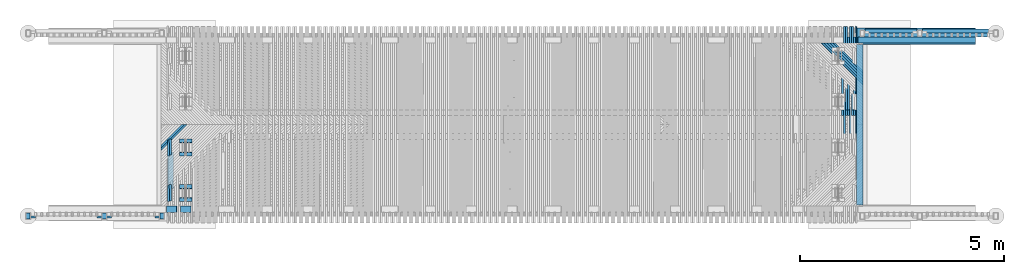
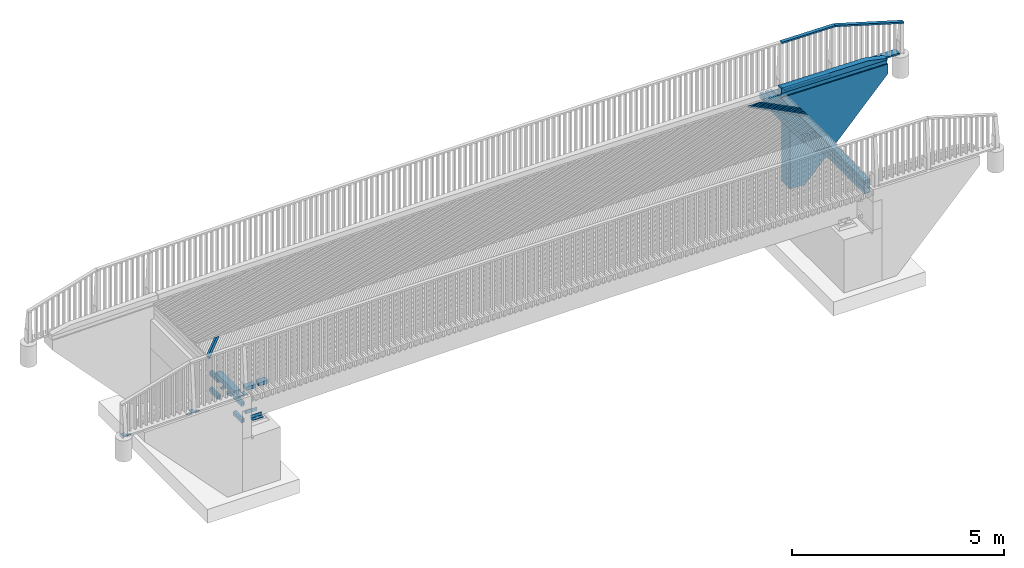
# One storey, part 43 of 47: 47 beams.
"""IFC2X3 building model written with IfcOpenShell, lengths in millimetres."""

from ifc_helpers import new_model, si_unit, frame, origin_with_axes, place, context, subcontext, project, spatial, faceted_brep, material, type_object, element, save


model = new_model("IFC2X3")

# Units and contexts
model_context = context("Model", 3, precision=1e-05, world=origin_with_axes())
body_context = subcontext(model_context, "Body", "Model", "MODEL_VIEW")
ifc_project = project(units=[si_unit("LENGTHUNIT", "METRE", prefix="MILLI"), si_unit("AREAUNIT", "SQUARE_METRE"), si_unit("VOLUMEUNIT", "CUBIC_METRE"), si_unit("MASSUNIT", "GRAM", prefix="KILO"), si_unit("TIMEUNIT", "SECOND"), si_unit("PLANEANGLEUNIT", "RADIAN"), si_unit("SOLIDANGLEUNIT", "STERADIAN"), si_unit("THERMODYNAMICTEMPERATUREUNIT", "DEGREE_CELSIUS"), si_unit("LUMINOUSINTENSITYUNIT", "LUMEN")], contexts=[model_context])

# Site, building, storey
site_placement = place(None, origin_with_axes())
site = spatial("IfcSite", under=ifc_project, at=site_placement, Name="Undefined", CompositionType="ELEMENT")
building_placement = place(site_placement, origin_with_axes())
building = spatial("IfcBuilding", under=site, at=building_placement, Name="Undefined", CompositionType="ELEMENT")
storey_placement = place(building_placement, origin_with_axes())
storey = spatial("IfcBuildingStorey", under=building, at=storey_placement, Name="Undefined", CompositionType="ELEMENT", Elevation=0.0)

# Beams
ifc_material_1 = material(Name="STEEL/AISI316")
beam_type_1 = type_object("IfcBeamType", Name="PL60*10", PredefinedType="NOTDEFINED")
for number, where, z_axis, x_axis in (
    (1, (-3802.03943117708, 60099.9999997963, 3074.05721748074), (-0.000116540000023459, 0.999999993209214, 0.0), (0.999999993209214, 0.000116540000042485, 0.0)),
    (2, (-642.026880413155, 60099.9999997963, 3120.19233695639), (0.000116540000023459, 0.999999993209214, 0.0), (-0.999999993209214, 0.000116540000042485, 0.0)),
    (3, (-2057.02733990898, 60099.9999997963, 3100.31976226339), (0.000116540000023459, 0.999999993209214, 0.0), (-0.999999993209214, 0.000116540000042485, 0.0)),
    (4, (-1937.03433205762, 60099.9999997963, 3100.31976226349), (-0.000116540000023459, 0.999999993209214, 0.0), (0.999999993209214, 0.000116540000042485, 0.0)),
):
    element("IfcBeam", number, at=place(storey_placement, frame(where, z_axis=z_axis, x_axis=x_axis)), inside=storey, type_object=beam_type_1, material=ifc_material_1, Name="KAIDEPYLVÄS", ObjectType="PL60*10", context=body_context, shape_type="Brep", body=[
        faceted_brep([(3.63797880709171e-12, 5.0, -30.0), (0.0, 5.0, 30.0), (115.000000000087, 5.0, 29.9999999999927), (115.000000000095, 5.0, -30.0), (0.0, -5.0, 30.0), (115.000000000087, -5.0, 29.9999999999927), (3.63797880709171e-12, -5.0, -30.0), (115.000000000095, -5.0, -30.0)], [[[0, 1, 2, 3]], [[1, 4, 5, 2]], [[4, 6, 7, 5]], [[6, 0, 3, 7]], [[5, 7, 3, 2]], [[6, 4, 1, 0]]]),
    ])
beam_type_2 = type_object("IfcBeamType", Name="PL100*10", PredefinedType="NOTDEFINED")
for number, where, z_axis, x_axis in (
    (5, (-3862.03593497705, 60055.02, 3091.31721748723), (-1.0, 0.0, 0.0), (0.0, 1.0, 0.0)),
    (6, (-582.030376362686, 60055.02, 3137.45233696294), (-1.0, 0.0, 0.0), (0.0, 1.0, 0.0)),
    (7, (-1997.03083585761, 60055.02, 3117.57976226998), (-1.0, 0.0, 0.0), (0.0, 1.0, 0.0)),
):
    element("IfcBeam", number, at=place(storey_placement, frame(where, z_axis=z_axis, x_axis=x_axis)), inside=storey, type_object=beam_type_2, material=ifc_material_1, Name="KAIDEPYLVÄS", ObjectType="PL100*10", context=body_context, shape_type="Brep", body=[
        faceted_brep([(0.0, 5.0, -50.0), (0.0, 5.0, 50.0), (140.0, 5.0, 50.0), (140.0, 5.0, -50.0), (0.0, -5.0, 50.0), (140.0, -5.0, 50.0), (0.0, -5.0, -50.0), (140.0, -5.0, -50.0)], [[[0, 1, 2, 3]], [[1, 4, 5, 2]], [[4, 6, 7, 5]], [[6, 0, 3, 7]], [[5, 7, 3, 2]], [[6, 4, 1, 0]]]),
    ])
ifc_material_2 = material(Name="TIMBER/Timber_Undefined")
beam_type_3 = type_object("IfcBeamType", Name="95*45", PredefinedType="NOTDEFINED")
beam_1_placement = place(storey_placement, frame((18047.3455816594, 64562.487908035, 4509.17778679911), z_axis=(0.0, 1.0, 0.0), x_axis=(-0.999901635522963, 0.0, 0.0140256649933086)))
element("IfcBeam", 8, at=beam_1_placement, inside=storey, type_object=beam_type_3, material=ifc_material_2, Name="YLÄJOHDE", ObjectType="95*45", context=body_context, shape_type="Brep", body=[
    faceted_brep([(10.662208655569, 22.5, -47.5), (10.662208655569, 22.5, 47.5), (1460.80524071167, 22.5, 47.5), (1460.80524071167, 22.5, -47.5), (10.030991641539, -22.4999999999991, 47.5), (1460.17402369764, -22.4999999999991, 47.5), (10.030991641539, -22.4999999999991, -47.5), (1460.17402369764, -22.4999999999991, -47.5)], [[[0, 1, 2, 3]], [[1, 4, 5, 2]], [[4, 6, 7, 5]], [[6, 0, 3, 7]], [[5, 7, 3, 2]], [[6, 4, 1, 0]]]),
])
beam_2_placement = place(storey_placement, frame((18040.5964588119, 64562.4900359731, 4510.12573356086), z_axis=(0.0, 1.0, 0.0), x_axis=(0.958249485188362, 0.0, -0.285933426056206)))
element("IfcBeam", 9, at=beam_2_placement, inside=storey, type_object=beam_type_3, material=ifc_material_2, Name="YLÄJOHDE", ObjectType="95*45", context=body_context, shape_type="Brep", body=[
    faceted_brep([(13.4276539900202, 22.4999999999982, -47.5), (13.4276539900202, 22.4999999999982, 47.5), (1959.6848957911, 22.4999999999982, 47.5), (1959.6848957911, 22.4999999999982, -47.5), (4.00216176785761e-05, -22.5000000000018, 47.5), (1946.25728182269, -22.5000000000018, 47.5), (4.00216176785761e-05, -22.5000000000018, -47.5), (1946.25728182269, -22.5000000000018, -47.5)], [[[0, 1, 2, 3]], [[1, 4, 5, 2]], [[4, 6, 7, 5]], [[6, 0, 3, 7]], [[5, 7, 3, 2]], [[6, 4, 1, 0]]]),
])
beam_type_4 = type_object("IfcBeamType", Name="195*45", PredefinedType="NOTDEFINED")
beam_3_placement = place(storey_placement, frame((19791.7186980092, 64612.4900299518, 3105.29183869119), z_axis=(0.0, 1.0, 0.0), x_axis=(-0.999901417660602, 0.0, 0.0140411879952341)))
element("IfcBeam", 10, at=beam_3_placement, inside=storey, type_object=beam_type_4, material=ifc_material_2, Name="BEAM", ObjectType="195*45", context=body_context, shape_type="Brep", body=[
    faceted_brep([(0.0, 22.5, -97.5), (0.0, 22.5, 97.5), (1724.99699880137, 22.5, 97.5), (1724.99699880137, 22.5, -97.5), (0.0, -22.5, 97.5), (1724.99699880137, -22.4999999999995, 97.5), (0.0, -22.5, -97.5), (1724.99699880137, -22.4999999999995, -97.5)], [[[0, 1, 2, 3]], [[1, 4, 5, 2]], [[4, 6, 7, 5]], [[6, 0, 3, 7]], [[5, 7, 3, 2]], [[6, 4, 1, 0]]]),
])
beam_4_placement = place(storey_placement, frame((17926.6993513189, 64612.4900299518, 3131.48945565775), z_axis=(0.0, 1.0, 0.0), x_axis=(-0.999901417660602, 0.0, 0.0140411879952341)))
element("IfcBeam", 11, at=beam_4_placement, inside=storey, type_object=beam_type_4, material=ifc_material_2, Name="BEAM", ObjectType="195*45", context=body_context, shape_type="Brep", body=[
    faceted_brep([(0.0, 22.5, -97.5), (0.0, 22.5, 97.5), (1275.1508080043, 22.5, 97.5), (1275.1508080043, 22.5, -97.5), (0.0, -22.5, 97.5), (1275.15080800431, -22.4999999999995, 97.5), (0.0, -22.5, -97.5), (1275.15080800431, -22.4999999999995, -97.5)], [[[0, 1, 2, 3]], [[1, 4, 5, 2]], [[4, 6, 7, 5]], [[6, 0, 3, 7]], [[5, 7, 3, 2]], [[6, 4, 1, 0]]]),
])
beam_type_5 = type_object("IfcBeamType", Name="150*100", PredefinedType="NOTDEFINED")
beam_5_placement = place(storey_placement, frame((19364.0305880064, 64439.9999999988, 3118.67572907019), z_axis=(0.0, -1.0, 0.0), x_axis=(-0.999904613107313, 0.0, 0.0138117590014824)))
element("IfcBeam", 12, at=beam_5_placement, inside=storey, type_object=beam_type_5, material=ifc_material_2, Name="TÖRMÄYSJOHDE", ObjectType="150*100", context=body_context, shape_type="Brep", body=[
    faceted_brep([(-3.63797880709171e-12, 50.0, -75.0), (-3.63797880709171e-12, 50.0, 75.0), (2885.27521749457, 50.0, 75.0), (2885.27521749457, 50.0, -75.0), (0.0, -49.9999999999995, 75.0), (2885.27521749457, -49.9999999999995, 75.0), (0.0, -49.9999999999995, -75.0), (2885.27521749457, -49.9999999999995, -75.0)], [[[0, 1, 2, 3]], [[1, 4, 5, 2]], [[4, 6, 7, 5]], [[6, 0, 3, 7]], [[5, 7, 3, 2]], [[6, 4, 1, 0]]]),
])
for number, where, z_axis, x_axis in (
    (13, (-124.254815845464, 60289.9999999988, 3163.13350788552), (0.0, -1.0, 0.0), (0.999891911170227, 0.0, 0.0147025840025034)),
    (14, (-469.724815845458, 60289.9999999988, 3158.3535078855), (0.0, -1.0, 0.0), (0.999891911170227, 0.0, 0.0147025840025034)),
):
    element("IfcBeam", number, at=place(storey_placement, frame(where, z_axis=z_axis, x_axis=x_axis)), inside=storey, type_object=beam_type_5, material=ifc_material_2, Name="TÖRMÄYSJOHDE", ObjectType="150*100", context=body_context, shape_type="Brep", body=[
        faceted_brep([(-3.63797880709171e-12, 50.0, -75.0), (-3.63797880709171e-12, 50.0, 75.0), (250.000589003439, 50.0000000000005, 75.0), (250.000589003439, 50.0000000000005, -75.0), (0.0, -49.9999999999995, 75.0), (250.000589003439, -50.0, 75.0), (0.0, -49.9999999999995, -75.0), (250.000589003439, -50.0, -75.0)], [[[0, 1, 2, 3]], [[1, 4, 5, 2]], [[4, 6, 7, 5]], [[6, 0, 3, 7]], [[5, 7, 3, 2]], [[6, 4, 1, 0]]]),
    ])
beam_type_6 = type_object("IfcBeamType", Name="150*150", PredefinedType="NOTDEFINED")
beam_6_placement = place(storey_placement, frame((19366.0358819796, 64439.9999999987, 3243.66334439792), z_axis=(0.0, -1.0, 0.0), x_axis=(-0.999904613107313, 0.0, 0.0138117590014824)))
element("IfcBeam", 15, at=beam_6_placement, inside=storey, type_object=beam_type_6, material=ifc_material_2, Name="TÖRMÄYSJOHDE", ObjectType="150*150", context=body_context, shape_type="Brep", body=[
    faceted_brep([(2885.27521749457, -74.9999999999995, 75.0), (2885.27521749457, -74.9999999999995, -75.0), (2885.27521749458, 75.0, -75.0), (2885.27521749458, 75.0, 75.0), (3.63797880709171e-12, 75.0000000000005, -75.0), (3.63797880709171e-12, 75.0000000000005, 75.0), (3.63797880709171e-12, 33.1222400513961, -75.0), (3.63797880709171e-12, 33.1222400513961, 75.0), (529.511118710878, -75.0, 75.0), (529.511118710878, -75.0, -75.0)], [[[0, 1, 2, 3]], [[4, 5, 3, 2]], [[5, 4, 6, 7]], [[0, 3, 5, 7, 8]], [[1, 0, 8, 9]], [[4, 2, 1, 9, 6]], [[8, 7, 6, 9]]]),
])
beam_7_placement = place(storey_placement, frame((16525.0, 60399.9992755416, 3109.00000000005), z_axis=(1.0, 0.0, 0.0), x_axis=(0.0, 1.0, 0.0)))
element("IfcBeam", 16, at=beam_7_placement, inside=storey, type_object=beam_type_6, material=ifc_material_2, Name="BEAM", ObjectType="150*150", context=body_context, shape_type="Brep", body=[
    faceted_brep([(0.0, -75.0000000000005, 75.0), (0.0, -75.0000000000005, -75.0), (3930.0, -75.0, -75.0), (3930.0, -75.0, 75.0), (3930.0, 3.17681141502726, -75.0), (3930.0, 0.558028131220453, 75.0), (1965.00070282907, 39.8541855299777, 75.0), (0.0, 0.558000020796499, 75.0), (0.0, 3.17678330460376, -75.0), (1965.00070282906, 42.472968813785, -75.0)], [[[0, 1, 2, 3]], [[3, 2, 4, 5]], [[0, 3, 5, 6, 7]], [[1, 0, 7, 8]], [[4, 2, 1, 8, 9]], [[5, 4, 9, 6]], [[8, 7, 6, 9]]]),
])
for number, where, z_axis, x_axis, name in (
    (17, (16525.0, 60399.9992755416, 2959.00000000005), (1.0, 0.0, 0.0), (0.0, 1.0, 0.0), "BEAM"),
    (18, (16525.0, 60399.9992755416, 2809.00000000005), (1.0, 0.0, 0.0), (0.0, 1.0, 0.0), "BEAM"),
):
    element("IfcBeam", number, at=place(storey_placement, frame(where, z_axis=z_axis, x_axis=x_axis)), inside=storey, type_object=beam_type_6, material=ifc_material_2, Name=name, ObjectType="150*150", context=body_context, shape_type="Brep", body=[
        faceted_brep([(3.63797880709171e-12, 75.0000000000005, -75.0), (3.63797880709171e-12, 75.0000000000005, 75.0), (3930.0, 75.0, 75.0), (3930.0, 75.0, -75.0), (0.0, -75.0000000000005, 75.0), (3930.0, -75.0, 75.0), (0.0, -75.0000000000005, -75.0), (3930.0, -75.0, -75.0)], [[[0, 1, 2, 3]], [[1, 4, 5, 2]], [[4, 6, 7, 5]], [[6, 0, 3, 7]], [[5, 7, 3, 2]], [[6, 4, 1, 0]]]),
    ])
beam_8_placement = place(storey_placement, frame((-375.006122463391, 60795.0011300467, 2658.99214114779), z_axis=(4.45050000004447e-05, 0.0, 0.999999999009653), x_axis=(0.0, 1.0, 0.0)))
element("IfcBeam", 19, at=beam_8_placement, inside=storey, type_object=beam_type_6, material=ifc_material_2, Name="BEAM", ObjectType="150*150", context=body_context, shape_type="Brep", body=[
    faceted_brep([(3.63797880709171e-12, 75.0000000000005, -75.0), (3.63797880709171e-12, 75.0000000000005, 75.0), (900.0, 75.0, 75.0000000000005), (900.0, 74.9999999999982, -74.9999999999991), (0.0, -75.0000000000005, 75.0), (900.0, -75.0000000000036, 75.0000000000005), (0.0, -75.0000000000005, -75.0), (900.0, -75.0, -74.9999999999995)], [[[0, 1, 2, 3]], [[1, 4, 5, 2]], [[4, 6, 7, 5]], [[6, 0, 3, 7]], [[5, 7, 3, 2]], [[6, 4, 1, 0]]]),
])
ifc_material_3 = material(Name="CONCRETE/Concrete_Undefined")
beam_type_7 = type_object("IfcBeamType", Name="2800*400", PredefinedType="NOTDEFINED")
beam_9_placement = place(storey_placement, frame((16430.3400332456, 64530.0, 1712.66804762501), z_axis=(0.0140428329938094, 0.0, 0.999901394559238), x_axis=(0.999901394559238, 0.0, -0.0140428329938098)))
element("IfcBeam", 20, at=beam_9_placement, inside=storey, type_object=beam_type_7, material=ifc_material_3, Name="SIIPIMUURI", ObjectType="2800*400", context=body_context, shape_type="Brep", body=[
    faceted_brep([(0.280884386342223, 199.999999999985, 1380.0), (3.63797880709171e-12, -200.0, 1400.0), (2915.2874638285, -200.0, 1400.0), (2915.5683481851, 200.0, 1380.0), (270.457242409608, 199.999999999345, -54.8754727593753), (270.457242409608, -200.0, -54.8754727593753), (255.29098277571, -200.0, 1025.01803336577), (255.29098277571, 199.999999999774, 1025.01803336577), (288.066954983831, 200.0, -1308.75182153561), (288.066954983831, -200.0, -1308.75182153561), (697.173583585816, 200.0, -1303.00623892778), (697.173583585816, -200.0, -1303.00623892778), (2919.22031514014, 200.0, 1119.96651154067), (2919.22031514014, -200.0, 1119.96651154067), (5.31563413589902, -200.0, 1021.50732511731), (5.31563413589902, 199.999999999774, 1021.50732511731)], [[[0, 1, 2, 3]], [[4, 5, 6, 7]], [[8, 9, 5, 4]], [[10, 11, 9, 8]], [[12, 13, 11, 10]], [[13, 12, 3, 2]], [[6, 5, 9, 11, 13, 2, 1, 14]], [[7, 6, 14, 15]], [[12, 10, 8, 4, 7, 15, 0, 3]], [[15, 14, 1, 0]]]),
])
beam_type_8 = type_object("IfcBeamType", Name="150*50", PredefinedType="NOTDEFINED")
beam_10_placement = place(storey_placement, frame((16451.1838068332, 64771.443807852, 3028.66244877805), z_axis=(0.0139555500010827, 0.0199960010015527, 0.99970265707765), x_axis=(0.000279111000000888, -0.999800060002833, 0.0199940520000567)))
element("IfcBeam", 21, at=beam_10_placement, inside=storey, type_object=beam_type_8, material=ifc_material_2, Name="BEAM", ObjectType="150*50", context=body_context, shape_type="Brep", body=[
    faceted_brep([(2633.00495050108, -24.9999999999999, -75.0000000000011), (6.18456397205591e-09, -24.9999999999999, -75.0000000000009), (-7.07514118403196e-08, 0.907584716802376, -75.0), (2633.00494782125, 0.528110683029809, -75.0), (-6.1918399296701e-09, -24.9999999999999, 74.9999999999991), (7.07586877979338e-08, -0.173331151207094, 75.0), (2408.42506272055, -0.520438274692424, 75.0), (2768.5924871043, -0.468488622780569, 60.587539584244), (2768.59248707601, -25.0, 60.5875366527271), (2408.4250638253, -25.0, 74.9999999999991)], [[[0, 1, 2, 3]], [[1, 4, 5, 2]], [[3, 2, 5, 6, 7]], [[0, 3, 7, 8]], [[4, 1, 0, 8, 9]], [[5, 4, 9, 6]], [[8, 7, 6, 9]]]),
])
beam_11_placement = place(storey_placement, frame((16401.1758960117, 64513.4953923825, 3034.52066157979), z_axis=(0.0139555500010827, 0.0199960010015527, 0.99970265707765), x_axis=(0.000279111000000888, -0.999800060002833, 0.0199940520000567)))
element("IfcBeam", 22, at=beam_11_placement, inside=storey, type_object=beam_type_8, material=ifc_material_2, Name="BEAM", ObjectType="150*50", context=body_context, shape_type="Brep", body=[
    faceted_brep([(6.18456397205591e-09, -24.9999999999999, -75.0000000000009), (-6.1918399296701e-09, -24.9999999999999, 74.9999999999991), (-6.19911588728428e-09, 25.0, 75.0), (6.18456397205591e-09, 24.9999999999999, -75.0), (1789.96936586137, 25.0, 75.0000000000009), (1928.42646506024, 25.0, -75.0), (1928.4264649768, -24.9999999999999, -75.0), (1789.96936577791, -24.9999999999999, 75.0)], [[[0, 1, 2, 3]], [[3, 2, 4, 5]], [[0, 3, 5, 6]], [[1, 0, 6, 7]], [[2, 1, 7, 4]], [[7, 6, 5, 4]]]),
])
beam_12_placement = place(storey_placement, frame((16351.2041883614, 64771.4438078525, 3030.05660612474), z_axis=(0.0138731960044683, 0.0199960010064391, 0.99970380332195), x_axis=(0.000277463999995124, -0.999800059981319, 0.0199940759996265)))
element("IfcBeam", 23, at=beam_12_placement, inside=storey, type_object=beam_type_8, material=ifc_material_2, Name="BEAM", ObjectType="150*50", context=body_context, shape_type="Brep", body=[
    faceted_brep([(6.18456397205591e-09, -24.9999999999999, -75.0000000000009), (-6.1918399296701e-09, -24.9999999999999, 74.9999999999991), (-6.19911588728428e-09, 25.0, 75.0), (6.18456397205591e-09, 24.9999999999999, -75.0), (2047.96935975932, 25.0, 75.0), (2186.42645864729, 25.0, -75.0), (2186.42645915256, -25.0000000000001, -75.0), (2047.96936034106, -25.0000000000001, 75.0)], [[[0, 1, 2, 3]], [[3, 2, 4, 5]], [[0, 3, 5, 6]], [[1, 0, 6, 7]], [[2, 1, 7, 4]], [[7, 6, 5, 4]]]),
])
beam_13_placement = place(storey_placement, frame((16301.1695675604, 64771.443807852, 3030.75006857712), z_axis=(0.0137063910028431, 0.0199960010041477, 0.999706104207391), x_axis=(0.00027412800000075, -0.999800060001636, 0.0199941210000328)))
element("IfcBeam", 24, at=beam_13_placement, inside=storey, type_object=beam_type_8, material=ifc_material_2, Name="BEAM", ObjectType="150*50", context=body_context, shape_type="Brep", body=[
    faceted_brep([(6.18456397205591e-09, -24.9999999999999, -75.0000000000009), (6.18456397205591e-09, 24.9999999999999, -75.0), (2633.00494983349, 25.0000000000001, -75.0000000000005), (2633.00495050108, -24.9999999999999, -75.0000000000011), (-6.1918399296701e-09, -24.9999999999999, 74.9999999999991), (-6.19911588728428e-09, 25.0, 75.0), (2408.42501428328, 25.0000000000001, 74.9999999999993), (2768.5924870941, 25.0, 60.5875375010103), (2768.59248707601, -25.0, 60.5875366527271), (2408.4250638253, -25.0, 74.9999999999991)], [[[0, 1, 2, 3]], [[0, 4, 5, 1]], [[2, 1, 5, 6, 7]], [[3, 2, 7, 8]], [[4, 0, 3, 8, 9]], [[5, 4, 9, 6]], [[8, 7, 6, 9]]]),
])
beam_14_placement = place(storey_placement, frame((16251.1601982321, 64513.4953923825, 3036.59581757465), z_axis=(0.0137063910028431, 0.0199960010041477, 0.999706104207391), x_axis=(0.00027412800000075, -0.999800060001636, 0.0199941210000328)))
element("IfcBeam", 25, at=beam_14_placement, inside=storey, type_object=beam_type_8, material=ifc_material_2, Name="BEAM", ObjectType="150*50", context=body_context, shape_type="Brep", body=[
    faceted_brep([(6.18456397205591e-09, -24.9999999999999, -75.0000000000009), (-6.1918399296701e-09, -24.9999999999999, 74.9999999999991), (-6.19911588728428e-09, 25.0, 75.0), (6.18456397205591e-09, 24.9999999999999, -75.0), (1789.96936586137, 25.0, 75.0000000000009), (1928.42646506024, 25.0, -75.0), (1928.4264649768, -24.9999999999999, -75.0), (1789.96936577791, -24.9999999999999, 75.0)], [[[0, 1, 2, 3]], [[3, 2, 4, 5]], [[0, 3, 5, 6]], [[1, 0, 6, 7]], [[2, 1, 7, 4]], [[7, 6, 5, 4]]]),
])
beam_15_placement = place(storey_placement, frame((16201.1896047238, 64771.4438078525, 3032.11930765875), z_axis=(0.0136240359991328, 0.0199960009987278, 0.999707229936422), x_axis=(0.000272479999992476, -0.999800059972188, 0.0199941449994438)))
element("IfcBeam", 26, at=beam_15_placement, inside=storey, type_object=beam_type_8, material=ifc_material_2, Name="BEAM", ObjectType="150*50", context=body_context, shape_type="Brep", body=[
    faceted_brep([(6.18456397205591e-09, -24.9999999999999, -75.0000000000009), (-6.1918399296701e-09, -24.9999999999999, 74.9999999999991), (-6.19911588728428e-09, 25.0, 75.0), (6.18456397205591e-09, 24.9999999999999, -75.0), (2047.96935975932, 25.0, 75.0), (2186.42645864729, 25.0, -75.0), (2186.42645915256, -25.0000000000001, -75.0), (2047.96936034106, -25.0000000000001, 75.0)], [[[0, 1, 2, 3]], [[3, 2, 4, 5]], [[0, 3, 5, 6]], [[1, 0, 6, 7]], [[2, 1, 7, 4]], [[7, 6, 5, 4]]]),
])
beam_16_placement = place(storey_placement, frame((16151.1548126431, 64771.443807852, 3032.80029981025), z_axis=(0.013457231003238, 0.0199960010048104, 0.99970948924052), x_axis=(0.00026914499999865, -0.9998000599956, 0.019994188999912)))
element("IfcBeam", 27, at=beam_16_placement, inside=storey, type_object=beam_type_8, material=ifc_material_2, Name="BEAM", ObjectType="150*50", context=body_context, shape_type="Brep", body=[
    faceted_brep([(6.18456397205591e-09, -24.9999999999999, -75.0000000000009), (6.18456397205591e-09, 24.9999999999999, -75.0), (2633.00494983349, 25.0000000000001, -75.0000000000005), (2633.00495050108, -24.9999999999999, -75.0000000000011), (-6.1918399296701e-09, -24.9999999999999, 74.9999999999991), (-6.19911588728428e-09, 25.0, 75.0), (2408.42501428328, 25.0000000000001, 74.9999999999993), (2768.5924870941, 25.0, 60.5875375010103), (2768.59248707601, -25.0, 60.5875366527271), (2408.42499905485, -25.0, 74.9999999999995)], [[[0, 1, 2, 3]], [[0, 4, 5, 1]], [[2, 1, 5, 6, 7]], [[3, 2, 7, 8]], [[4, 0, 3, 8, 9]], [[5, 4, 9, 6]], [[6, 9, 8, 7]]]),
])
beam_17_placement = place(storey_placement, frame((16101.1439879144, 64513.4953923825, 3038.63358464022), z_axis=(0.013457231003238, 0.0199960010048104, 0.99970948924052), x_axis=(0.00026914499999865, -0.9998000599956, 0.019994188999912)))
element("IfcBeam", 28, at=beam_17_placement, inside=storey, type_object=beam_type_8, material=ifc_material_2, Name="BEAM", ObjectType="150*50", context=body_context, shape_type="Brep", body=[
    faceted_brep([(6.18456397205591e-09, -24.9999999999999, -75.0000000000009), (-6.1918399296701e-09, -24.9999999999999, 74.9999999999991), (-6.19911588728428e-09, 25.0, 75.0), (6.18456397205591e-09, 24.9999999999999, -75.0), (1789.96936586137, 25.0, 75.0000000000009), (1928.42646506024, 25.0, -75.0), (1928.4264649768, -24.9999999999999, -75.0), (1789.96936577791, -24.9999999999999, 75.0)], [[[0, 1, 2, 3]], [[3, 2, 4, 5]], [[0, 3, 5, 6]], [[1, 0, 6, 7]], [[2, 1, 7, 4]], [[7, 6, 5, 4]]]),
])
beam_type_9 = type_object("IfcBeamType", Name="50*50", PredefinedType="NOTDEFINED")
beam_18_placement = place(storey_placement, frame((-67.9630790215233, 62364.5001003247, 3182.06636119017), z_axis=(0.707223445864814, -0.706981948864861, -0.00339434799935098), x_axis=(-0.706826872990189, -0.706948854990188, -0.0248814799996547)))
element("IfcBeam", 29, at=beam_18_placement, inside=storey, type_object=beam_type_9, material=ifc_material_2, Name="BEAM", ObjectType="50*50", context=body_context, shape_type="Brep", body=[
    faceted_brep([(23.4806436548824, -25.0000000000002, -25.0), (-26.4222658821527, -25.0000000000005, 25.0000000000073), (-25.0086637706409, 24.9999999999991, 25.0), (24.8942457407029, 24.9999999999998, -24.9999999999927), (727.160463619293, -25.0000000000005, -25.0), (777.188516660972, -25.0000000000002, 25.0), (778.263116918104, 24.9999999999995, 25.0), (728.235063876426, 25.0, -25.0)], [[[0, 1, 2, 3]], [[1, 0, 4, 5]], [[2, 1, 5, 6]], [[3, 2, 6, 7]], [[0, 3, 7, 4]], [[6, 5, 4, 7]]]),
])
beam_19_placement = place(storey_placement, frame((2.75486054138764, 62364.5001003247, 3183.00987616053), z_axis=(0.70722304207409, -0.706981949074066, -0.00347741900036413), x_axis=(-0.706829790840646, -0.706948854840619, -0.0247984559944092)))
element("IfcBeam", 30, at=beam_19_placement, inside=storey, type_object=beam_type_9, material=ifc_material_2, Name="BEAM", ObjectType="50*50", context=body_context, shape_type="Brep", body=[
    faceted_brep([(23.4806436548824, -25.0000000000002, -25.0), (-26.4222658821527, -25.0000000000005, 25.0000000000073), (-25.0086637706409, 24.9999999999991, 25.0), (24.8942457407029, 24.9999999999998, -24.9999999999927), (827.211090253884, -24.9999999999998, -25.0000000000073), (877.238908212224, -24.9999999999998, 25.0), (878.305197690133, 25.0000000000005, 25.0), (828.277379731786, 25.0000000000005, -25.0)], [[[0, 1, 2, 3]], [[1, 0, 4, 5]], [[2, 1, 5, 6]], [[3, 2, 6, 7]], [[0, 3, 7, 4]], [[6, 5, 4, 7]]]),
])
beam_20_placement = place(storey_placement, frame((17895.3052888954, 62365.4998996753, 3154.80495489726), z_axis=(0.706807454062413, 0.706981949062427, -0.0244897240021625), x_axis=(-0.707254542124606, 0.706948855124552, -0.00378535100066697)))
element("IfcBeam", 31, at=beam_20_placement, inside=storey, type_object=beam_type_9, material=ifc_material_2, Name="BEAM", ObjectType="50*50", context=body_context, shape_type="Brep", body=[
    faceted_brep([(2804.34067830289, -24.9999999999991, 25.0), (2854.34301907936, -24.9999999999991, -25.0), (2852.92877373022, 25.0000000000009, -25.0), (2802.92643296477, 25.0000000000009, 25.0), (1856.95717342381, 25.0, 25.0000000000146), (1855.92241106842, -25.0, 25.0000000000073), (1805.95401836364, -25.0, -24.9999999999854), (1806.98878071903, 25.0, -24.9999999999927)], [[[0, 1, 2, 3]], [[0, 3, 4, 5]], [[1, 0, 5, 6]], [[2, 1, 6, 7]], [[3, 2, 7, 4]], [[6, 5, 4, 7]]]),
])
beam_21_placement = place(storey_placement, frame((17824.5905388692, 62365.4998996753, 3155.96311087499), z_axis=(0.706810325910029, 0.706981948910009, -0.0244067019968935), x_axis=(-0.707254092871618, 0.706948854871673, -0.00386842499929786)))
element("IfcBeam", 32, at=beam_21_placement, inside=storey, type_object=beam_type_9, material=ifc_material_2, Name="BEAM", ObjectType="50*50", context=body_context, shape_type="Brep", body=[
    faceted_brep([(2804.34067830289, -24.9999999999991, 25.0), (2854.34301907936, -24.9999999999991, -25.0), (2852.92877373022, 25.0000000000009, -25.0), (2802.92643296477, 25.0000000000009, 25.0), (1756.96937511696, 25.0, 25.0), (1755.94291351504, -24.9999999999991, 25.0000000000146), (1705.97428604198, -24.9999999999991, -24.9999999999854), (1707.00074764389, 25.0, -24.9999999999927)], [[[0, 1, 2, 3]], [[0, 3, 4, 5]], [[1, 0, 5, 6]], [[2, 1, 6, 7]], [[3, 2, 7, 4]], [[6, 5, 4, 7]]]),
])
beam_22_placement = place(storey_placement, frame((17753.8756532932, 62365.4998996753, 3157.11296064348), z_axis=(0.706813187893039, 0.706981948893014, -0.0243236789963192), x_axis=(-0.707253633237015, 0.706948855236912, -0.00395150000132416)))
element("IfcBeam", 33, at=beam_22_placement, inside=storey, type_object=beam_type_9, material=ifc_material_2, Name="BEAM", ObjectType="50*50", context=body_context, shape_type="Brep", body=[
    faceted_brep([(2804.34067830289, -24.9999999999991, 25.0), (2854.34301907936, -24.9999999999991, -25.0), (2852.92877373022, 25.0000000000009, -25.0), (2802.92643296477, 25.0000000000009, 25.0), (1656.98128205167, 25.0, 25.0), (1655.96312129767, -25.0000000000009, 25.0), (1605.99425901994, -25.0, -25.0), (1607.01241977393, 25.0, -25.0000000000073)], [[[0, 1, 2, 3]], [[0, 3, 4, 5]], [[1, 0, 5, 6]], [[2, 1, 6, 7]], [[3, 2, 7, 4]], [[6, 5, 4, 7]]]),
])
beam_23_placement = place(storey_placement, frame((17683.1606331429, 62365.4998996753, 3158.25450418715), z_axis=(0.706816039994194, 0.706981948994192, -0.0242406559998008), x_axis=(-0.707253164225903, 0.706948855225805, -0.0040345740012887)))
element("IfcBeam", 34, at=beam_23_placement, inside=storey, type_object=beam_type_9, material=ifc_material_2, Name="BEAM", ObjectType="50*50", context=body_context, shape_type="Brep", body=[
    faceted_brep([(2804.34067830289, -24.9999999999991, 25.0), (2854.34301907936, -24.9999999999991, -25.0), (2852.92877373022, 25.0000000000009, -25.0), (2802.92643296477, 25.0000000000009, 25.0), (1556.99288906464, 25.0000000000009, 25.0000000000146), (1555.98302910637, -24.9999999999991, 25.0000000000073), (1506.01393205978, -25.0, -24.9999999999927), (1507.02379201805, 25.0, -25.0)], [[[0, 1, 2, 3]], [[0, 3, 4, 5]], [[1, 0, 5, 6]], [[2, 1, 6, 7]], [[3, 2, 7, 4]], [[6, 5, 4, 7]]]),
])
beam_24_placement = place(storey_placement, frame((17612.4454793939, 62365.4998996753, 3159.38774149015), z_axis=(0.706818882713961, 0.706981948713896, -0.0241576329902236), x_axis=(-0.70725268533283, 0.706948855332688, -0.00411764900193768)))
element("IfcBeam", 35, at=beam_24_placement, inside=storey, type_object=beam_type_9, material=ifc_material_2, Name="BEAM", ObjectType="50*50", context=body_context, shape_type="Brep", body=[
    faceted_brep([(2804.34067830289, -24.9999999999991, 25.0), (2854.34301907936, -24.9999999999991, -25.0), (2852.92877373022, 25.0000000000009, -25.0), (2802.92643296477, 25.0000000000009, 25.0), (1457.0041945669, 25.0000000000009, 25.0000000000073), (1456.00263545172, -24.9999999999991, 25.0000000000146), (1406.03330360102, -25.0, -25.0), (1407.03486271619, 25.0000000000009, -24.9999999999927)], [[[0, 1, 2, 3]], [[0, 3, 4, 5]], [[1, 0, 5, 6]], [[2, 1, 6, 7]], [[3, 2, 7, 4]], [[6, 5, 4, 7]]]),
])
ifc_material_4 = material(Name="STEEL/S235JR")
beam_type_10 = type_object("IfcBeamType", Name="L100*10", PredefinedType="NOTDEFINED")
for number, where, z_axis, x_axis, name in (
    (36, (-150.0, 61962.5, 2047.33), (0.0, 1.0, 0.0), (1.0, 0.0, 0.0), "BEAM"),
    (37, (-150.0, 61647.5, 2047.33), (0.0, 0.0, 1.0), (1.0, 0.0, 0.0), "BEAM"),
    (38, (-150.0, 60842.5, 2025.33), (0.0, 1.0, 0.0), (1.0, 0.0, 0.0), "BEAM"),
    (39, (-150.0, 60527.5, 2025.33), (0.0, 0.0, 1.0), (1.0, 0.0, 0.0), "BEAM"),
):
    element("IfcBeam", number, at=place(storey_placement, frame(where, z_axis=z_axis, x_axis=x_axis)), inside=storey, type_object=beam_type_10, material=ifc_material_4, Name=name, ObjectType="L100*10", context=body_context, shape_type="Brep", body=[
        faceted_brep([(0.0, 50.0, -50.0), (0.0, 50.0, 50.0), (300.0, 50.0, 50.0), (300.0, 50.0, -50.0), (0.0, 40.0, 50.0), (300.0, 40.0, 50.0), (0.0, 40.0, -40.0), (300.0, 40.0, -40.0), (0.0, -50.0, -40.0), (300.0, -50.0, -40.0), (0.0, -50.0, -50.0), (300.0, -50.0, -50.0)], [[[0, 1, 2, 3]], [[1, 4, 5, 2]], [[4, 6, 7, 5]], [[6, 8, 9, 7]], [[8, 10, 11, 9]], [[10, 0, 3, 11]], [[5, 7, 9, 11, 3, 2]], [[10, 8, 6, 4, 1, 0]]]),
    ])
beam_type_11 = type_object("IfcBeamType", Name="100*60", PredefinedType="NOTDEFINED")
beam_25_placement = place(storey_placement, frame((-380.01, 61617.5, 2533.62000000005), z_axis=(0.0, 0.0, 1.0), x_axis=(0.0, 1.0, 0.0)))
element("IfcBeam", 40, at=beam_25_placement, inside=storey, type_object=beam_type_11, material=ifc_material_2, Name="BEAM", ObjectType="100*60", context=body_context, shape_type="Brep", body=[
    faceted_brep([(0.0, -30.0, 50.0), (0.0, -30.0, -50.0), (395.0, -30.0, -50.0), (395.0, -30.0, 50.0), (0.0, 15.2499998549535, 50.0), (0.0, 15.2499998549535, -50.0), (395.0, 25.2500000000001, -50.0), (395.0, 25.2500000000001, 50.0)], [[[0, 1, 2, 3]], [[1, 0, 4, 5]], [[2, 1, 5, 6]], [[3, 2, 6, 7]], [[0, 3, 7, 4]], [[6, 5, 4, 7]]]),
])
beam_26_placement = place(storey_placement, frame((-420.01, 61597.5, 2533.62000000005), z_axis=(0.0, 0.0, 1.0), x_axis=(0.0, 1.0, 0.0)))
element("IfcBeam", 41, at=beam_26_placement, inside=storey, type_object=beam_type_11, material=ifc_material_2, Name="BEAM", ObjectType="100*60", context=body_context, shape_type="Brep", body=[
    faceted_brep([(0.0, 30.0, -50.0), (0.0, 30.0, 50.0), (395.0, 30.0, 50.0), (395.0, 30.0, -50.0), (0.0, -25.2563292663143, 50.0), (395.0, -15.256329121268, 50.0), (395.0, -15.256329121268, -50.0), (0.0, -25.2563292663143, -50.0)], [[[0, 1, 2, 3]], [[2, 1, 4, 5]], [[3, 2, 5, 6]], [[0, 3, 6, 7]], [[1, 0, 7, 4]], [[6, 5, 4, 7]]]),
])
beam_27_placement = place(storey_placement, frame((-380.0, 61617.5, 2055.33), z_axis=(0.0, 0.0, 1.0), x_axis=(0.0, 1.0, 0.0)))
element("IfcBeam", 42, at=beam_27_placement, inside=storey, type_object=beam_type_11, material=ifc_material_2, Name="BEAM", ObjectType="100*60", context=body_context, shape_type="Brep", body=[
    faceted_brep([(0.0, -30.0, 50.0), (0.0, -30.0, -50.0), (395.0, -30.0, -50.0), (395.0, -30.0, 50.0), (0.0, 15.2499998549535, 50.0), (0.0, 15.2499998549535, -50.0), (395.0, 25.2500000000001, -50.0), (395.0, 25.2500000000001, 50.0)], [[[0, 1, 2, 3]], [[1, 0, 4, 5]], [[2, 1, 5, 6]], [[3, 2, 6, 7]], [[0, 3, 7, 4]], [[6, 5, 4, 7]]]),
])
beam_28_placement = place(storey_placement, frame((-420.0, 61597.5, 2055.33), z_axis=(0.0, 0.0, 1.0), x_axis=(0.0, 1.0, 0.0)))
element("IfcBeam", 43, at=beam_28_placement, inside=storey, type_object=beam_type_11, material=ifc_material_2, Name="BEAM", ObjectType="100*60", context=body_context, shape_type="Brep", body=[
    faceted_brep([(0.0, 30.0, -50.0), (0.0, 30.0, 50.0), (395.0, 30.0, 50.0), (395.0, 30.0, -50.0), (0.0, -25.2563292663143, 50.0), (395.0, -15.256329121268, 50.0), (395.0, -15.256329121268, -50.0), (0.0, -25.2563292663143, -50.0)], [[[0, 1, 2, 3]], [[2, 1, 4, 5]], [[3, 2, 5, 6]], [[0, 3, 6, 7]], [[1, 0, 7, 4]], [[6, 5, 4, 7]]]),
])
beam_29_placement = place(storey_placement, frame((-380.01, 60497.5, 2533.62000000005), z_axis=(0.0, 0.0, 1.0), x_axis=(0.0, 1.0, 0.0)))
element("IfcBeam", 44, at=beam_29_placement, inside=storey, type_object=beam_type_11, material=ifc_material_2, Name="BEAM", ObjectType="100*60", context=body_context, shape_type="Brep", body=[
    faceted_brep([(0.0, -30.0, 50.0), (0.0, -30.0, -50.0), (395.0, -30.0, -50.0), (395.0, -30.0, 50.0), (0.0, 15.2499998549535, 50.0), (0.0, 15.2499998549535, -50.0), (395.0, 25.2500000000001, -50.0), (395.0, 25.2500000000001, 50.0)], [[[0, 1, 2, 3]], [[1, 0, 4, 5]], [[2, 1, 5, 6]], [[3, 2, 6, 7]], [[0, 3, 7, 4]], [[6, 5, 4, 7]]]),
])
beam_30_placement = place(storey_placement, frame((-420.01, 60477.5, 2533.62000000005), z_axis=(0.0, 0.0, 1.0), x_axis=(0.0, 1.0, 0.0)))
element("IfcBeam", 45, at=beam_30_placement, inside=storey, type_object=beam_type_11, material=ifc_material_2, Name="BEAM", ObjectType="100*60", context=body_context, shape_type="Brep", body=[
    faceted_brep([(0.0, 30.0, -50.0), (0.0, 30.0, 50.0), (395.0, 30.0, 50.0), (395.0, 30.0, -50.0), (0.0, -25.2563292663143, 50.0), (395.0, -15.256329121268, 50.0), (395.0, -15.256329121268, -50.0), (0.0, -25.2563292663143, -50.0)], [[[0, 1, 2, 3]], [[2, 1, 4, 5]], [[3, 2, 5, 6]], [[0, 3, 6, 7]], [[1, 0, 7, 4]], [[6, 5, 4, 7]]]),
])
beam_31_placement = place(storey_placement, frame((-380.0, 60497.5, 2055.33), z_axis=(0.0, 0.0, 1.0), x_axis=(0.0, 1.0, 0.0)))
element("IfcBeam", 46, at=beam_31_placement, inside=storey, type_object=beam_type_11, material=ifc_material_2, Name="BEAM", ObjectType="100*60", context=body_context, shape_type="Brep", body=[
    faceted_brep([(0.0, -30.0, 50.0), (0.0, -30.0, -50.0), (395.0, -30.0, -50.0), (395.0, -30.0, 50.0), (0.0, 15.2499998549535, 50.0), (0.0, 15.2499998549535, -50.0), (395.0, 25.2500000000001, -50.0), (395.0, 25.2500000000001, 50.0)], [[[0, 1, 2, 3]], [[1, 0, 4, 5]], [[2, 1, 5, 6]], [[3, 2, 6, 7]], [[0, 3, 7, 4]], [[6, 5, 4, 7]]]),
])
beam_32_placement = place(storey_placement, frame((-420.0, 60477.5, 2055.33), z_axis=(0.0, 0.0, 1.0), x_axis=(0.0, 1.0, 0.0)))
element("IfcBeam", 47, at=beam_32_placement, inside=storey, type_object=beam_type_11, material=ifc_material_2, Name="BEAM", ObjectType="100*60", context=body_context, shape_type="Brep", body=[
    faceted_brep([(0.0, 30.0, -50.0), (0.0, 30.0, 50.0), (395.0, 30.0, 50.0), (395.0, 30.0, -50.0), (0.0, -25.2563292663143, 50.0), (395.0, -15.256329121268, 50.0), (395.0, -15.256329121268, -50.0), (0.0, -25.2563292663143, -50.0)], [[[0, 1, 2, 3]], [[2, 1, 4, 5]], [[3, 2, 5, 6]], [[0, 3, 6, 7]], [[1, 0, 7, 4]], [[6, 5, 4, 7]]]),
])

save(model, "model.ifc")
